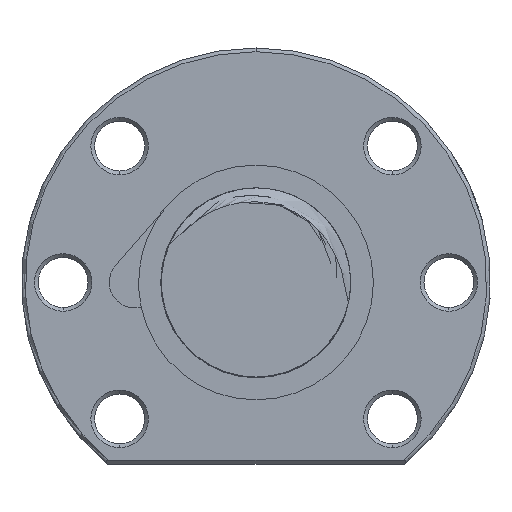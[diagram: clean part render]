
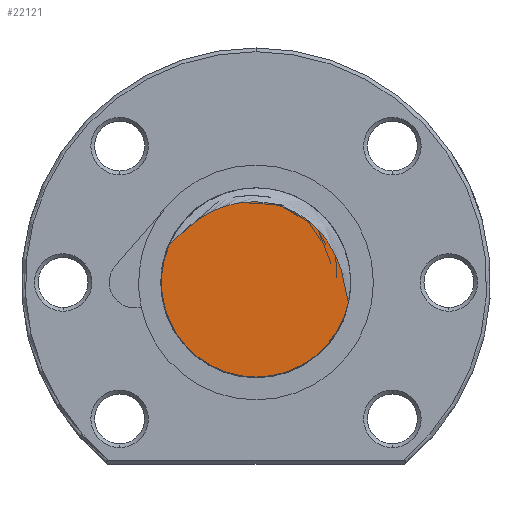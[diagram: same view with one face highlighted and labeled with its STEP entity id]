
A CAD part, left-side view. The second image highlights one B-rep face of the part: STEP entity #22121.
In plain terms, the highlighted planar face has unit normal (-1, 0, 0).
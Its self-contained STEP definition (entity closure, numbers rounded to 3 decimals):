
#84 = CARTESIAN_POINT ( 'NONE',  ( -157., 11.461, 4.989 ) ) ;
#101 = CARTESIAN_POINT ( 'NONE',  ( -157., 11.321, 5.09 ) ) ;
#102 = CARTESIAN_POINT ( 'NONE',  ( -157., 11.191, 5.204 ) ) ;
#103 = CARTESIAN_POINT ( 'NONE',  ( -157., 10.935, 5.436 ) ) ;
#104 = CARTESIAN_POINT ( 'NONE',  ( -157., 10.81, 5.556 ) ) ;
#105 = CARTESIAN_POINT ( 'NONE',  ( -157., 10.439, 5.918 ) ) ;
#106 = CARTESIAN_POINT ( 'NONE',  ( -157., 10.194, 6.163 ) ) ;
#107 = CARTESIAN_POINT ( 'NONE',  ( -157., 9.447, 6.883 ) ) ;
#108 = CARTESIAN_POINT ( 'NONE',  ( -157., 8.932, 7.344 ) ) ;
#109 = CARTESIAN_POINT ( 'NONE',  ( -157., 7.842, 8.198 ) ) ;
#110 = CARTESIAN_POINT ( 'NONE',  ( -157., 7.268, 8.592 ) ) ;
#111 = CARTESIAN_POINT ( 'NONE',  ( -157., 6.077, 9.284 ) ) ;
#112 = CARTESIAN_POINT ( 'NONE',  ( -157., 5.459, 9.585 ) ) ;
#113 = CARTESIAN_POINT ( 'NONE',  ( -157., 4.493, 9.961 ) ) ;
#114 = CARTESIAN_POINT ( 'NONE',  ( -157., 4.163, 10.074 ) ) ;
#115 = CARTESIAN_POINT ( 'NONE',  ( -157., 3.498, 10.27 ) ) ;
#116 = CARTESIAN_POINT ( 'NONE',  ( -157., 3.163, 10.354 ) ) ;
#117 = CARTESIAN_POINT ( 'NONE',  ( -157., 2.153, 10.561 ) ) ;
#118 = CARTESIAN_POINT ( 'NONE',  ( -157., 1.47, 10.644 ) ) ;
#119 = CARTESIAN_POINT ( 'NONE',  ( -157., 0.432, 10.68 ) ) ;
#120 = CARTESIAN_POINT ( 'NONE',  ( -157., 0.083, 10.677 ) ) ;
#121 = CARTESIAN_POINT ( 'NONE',  ( -157., -0.608, 10.641 ) ) ;
#122 = CARTESIAN_POINT ( 'NONE',  ( -157., -0.95, 10.608 ) ) ;
#123 = CARTESIAN_POINT ( 'NONE',  ( -157., -1.97, 10.464 ) ) ;
#124 = CARTESIAN_POINT ( 'NONE',  ( -157., -2.639, 10.308 ) ) ;
#125 = CARTESIAN_POINT ( 'NONE',  ( -157., -3.627, 9.984 ) ) ;
#126 = CARTESIAN_POINT ( 'NONE',  ( -157., -3.954, 9.861 ) ) ;
#127 = CARTESIAN_POINT ( 'NONE',  ( -157., -4.588, 9.589 ) ) ;
#128 = CARTESIAN_POINT ( 'NONE',  ( -157., -4.898, 9.44 ) ) ;
#129 = CARTESIAN_POINT ( 'NONE',  ( -157., -5.806, 8.955 ) ) ;
#130 = CARTESIAN_POINT ( 'NONE',  ( -157., -6.382, 8.581 ) ) ;
#131 = CARTESIAN_POINT ( 'NONE',  ( -157., -7.2, 7.941 ) ) ;
#132 = CARTESIAN_POINT ( 'NONE',  ( -157., -7.465, 7.713 ) ) ;
#133 = CARTESIAN_POINT ( 'NONE',  ( -157., -7.97, 7.241 ) ) ;
#134 = CARTESIAN_POINT ( 'NONE',  ( -157., -8.211, 6.995 ) ) ;
#135 = CARTESIAN_POINT ( 'NONE',  ( -157., -8.901, 6.23 ) ) ;
#136 = CARTESIAN_POINT ( 'NONE',  ( -157., -9.317, 5.683 ) ) ;
#137 = CARTESIAN_POINT ( 'NONE',  ( -157., -9.879, 4.809 ) ) ;
#138 = CARTESIAN_POINT ( 'NONE',  ( -157., -10.056, 4.508 ) ) ;
#139 = CARTESIAN_POINT ( 'NONE',  ( -157., -10.381, 3.9 ) ) ;
#140 = CARTESIAN_POINT ( 'NONE',  ( -157., -10.531, 3.591 ) ) ;
#141 = CARTESIAN_POINT ( 'NONE',  ( -157., -10.945, 2.652 ) ) ;
#142 = CARTESIAN_POINT ( 'NONE',  ( -157., -11.17, 2.008 ) ) ;
#143 = CARTESIAN_POINT ( 'NONE',  ( -157., -11.541, 0.691 ) ) ;
#144 = CARTESIAN_POINT ( 'NONE',  ( -157., -11.684, 0.018 ) ) ;
#145 = CARTESIAN_POINT ( 'NONE',  ( -157., -11.867, -1.003 ) ) ;
#146 = CARTESIAN_POINT ( 'NONE',  ( -157., -11.922, -1.344 ) ) ;
#147 = CARTESIAN_POINT ( 'NONE',  ( -157., -12.01, -1.855 ) ) ;
#148 = CARTESIAN_POINT ( 'NONE',  ( -157., -12.041, -2.025 ) ) ;
#149 = CARTESIAN_POINT ( 'NONE',  ( -157., -12.112, -2.364 ) ) ;
#150 = CARTESIAN_POINT ( 'NONE',  ( -157., -12.151, -2.533 ) ) ;
#151 = CARTESIAN_POINT ( 'NONE',  ( -157., -12.206, -2.697 ) ) ;
#219 = B_SPLINE_CURVE_WITH_KNOTS ( 'NONE', 3,
 ( #151, #150, #149, #148, #147, #146, #145, #144, #143, #142, #141, #140, #139, #138, #137, #136, #135, #134, #133, #132, #131, #130, #129, #128, #127, #126, #125, #124, #123, #122, #121, #120, #119, #118, #117, #116, #115, #114, #113, #112, #111, #110, #109, #108, #107, #106, #105, #104, #103, #102, #101, #84 ),
 .UNSPECIFIED., .F., .F.,
 ( 4, 2, 2, 2, 2, 2, 2, 2, 2, 2, 2, 2, 2, 2, 2, 2, 2, 2, 2, 2, 2, 2, 2, 2, 2, 4 ),
 ( 0.001, 0.001, 0.002, 0.003, 0.005, 0.007, 0.008, 0.009, 0.011, 0.012, 0.013, 0.015, 0.016, 0.017, 0.02, 0.021, 0.022, 0.024, 0.025, 0.026, 0.028, 0.03, 0.032, 0.033, 0.034, 0.034 ),
 .UNSPECIFIED. ) ;
#221 = DIRECTION ( 'NONE',  ( 0., 0., -1. ) ) ;
#222 = DIRECTION ( 'NONE',  ( 1., 0., 0. ) ) ;
#223 = CARTESIAN_POINT ( 'NONE',  ( -157., 0., 0. ) ) ;
#224 = AXIS2_PLACEMENT_3D ( 'NONE', #223, #222, #221 ) ;
#225 = PLANE ( 'NONE',  #224 ) ;
#226 = FACE_OUTER_BOUND ( 'NONE', #22122, .T. ) ;
#5474 = CARTESIAN_POINT ( 'NONE',  ( -157., -12.206, -2.697 ) ) ;
#5475 = DIRECTION ( 'NONE',  ( 0., 1., 0. ) ) ;
#5476 = DIRECTION ( 'NONE',  ( 1., 0., 0. ) ) ;
#5477 = CARTESIAN_POINT ( 'NONE',  ( -157., 0., 0. ) ) ;
#5478 = AXIS2_PLACEMENT_3D ( 'NONE', #5477, #5476, #5475 ) ;
#5482 = CIRCLE ( 'NONE', #5478, 12.5 ) ;
#22003 = VERTEX_POINT ( 'NONE', #26065 ) ;
#22005 = EDGE_CURVE ( 'NONE', #22003, #22016, #26059, .T. ) ;
#22016 = VERTEX_POINT ( 'NONE', #26204 ) ;
#22121 = ADVANCED_FACE ( 'NONE', ( #226 ), #225, .F. ) ;
#22122 = EDGE_LOOP ( 'NONE', ( #22123, #22124, #22126 ) ) ;
#22123 = ORIENTED_EDGE ( 'NONE', *, *, #22321, .F. ) ;
#22124 = ORIENTED_EDGE ( 'NONE', *, *, #22125, .T. ) ;
#22125 = EDGE_CURVE ( 'NONE', #22322, #22016, #219, .T. ) ;
#22126 = ORIENTED_EDGE ( 'NONE', *, *, #22005, .F. ) ;
#22321 = EDGE_CURVE ( 'NONE', #22322, #22003, #5482, .T. ) ;
#22322 = VERTEX_POINT ( 'NONE', #5474 ) ;
#26052 = DIRECTION ( 'NONE',  ( 0., 1., 0. ) ) ;
#26054 = DIRECTION ( 'NONE',  ( 1., 0., 0. ) ) ;
#26055 = CARTESIAN_POINT ( 'NONE',  ( -157., 0., 0. ) ) ;
#26057 = AXIS2_PLACEMENT_3D ( 'NONE', #26055, #26054, #26052 ) ;
#26059 = CIRCLE ( 'NONE', #26057, 12.5 ) ;
#26065 = CARTESIAN_POINT ( 'NONE',  ( -157., 0., -12.5 ) ) ;
#26204 = CARTESIAN_POINT ( 'NONE',  ( -157., 11.461, 4.989 ) ) ;
